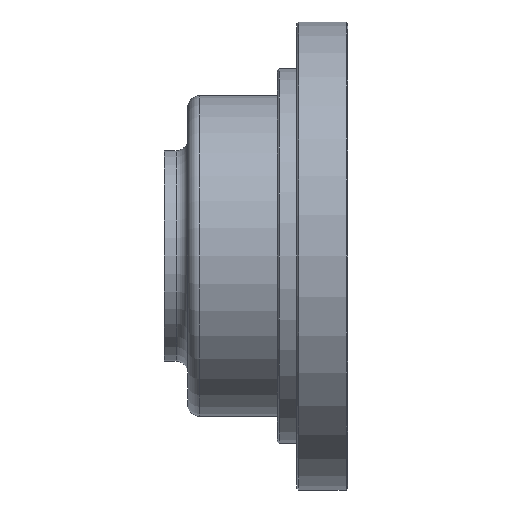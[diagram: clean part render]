
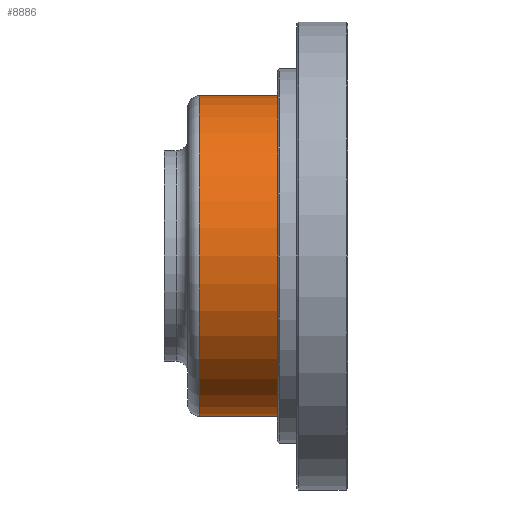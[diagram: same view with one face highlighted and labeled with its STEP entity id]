
A CAD part, left-side view. The second image highlights one B-rep face of the part: STEP entity #8886.
In plain terms, the highlighted cylindrical face has radius 20.55 mm (diameter 41.1 mm), a partial arc.
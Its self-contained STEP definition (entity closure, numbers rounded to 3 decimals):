
#423 = VECTOR ( 'NONE', #2668, 1000. ) ;
#917 = ORIENTED_EDGE ( 'NONE', *, *, #2424, .T. ) ;
#1005 = EDGE_LOOP ( 'NONE', ( #7390, #917, #3409, #5582 ) ) ;
#1977 = EDGE_CURVE ( 'NONE', #4071, #5590, #11102, .T. ) ;
#2249 = DIRECTION ( 'NONE',  ( 0., 1., 0. ) ) ;
#2424 = EDGE_CURVE ( 'NONE', #5755, #4071, #11649, .T. ) ;
#2668 = DIRECTION ( 'NONE',  ( 0., 1., 0. ) ) ;
#2901 = CARTESIAN_POINT ( 'NONE',  ( 0., 19., -20.55 ) ) ;
#3268 = CYLINDRICAL_SURFACE ( 'NONE', #9766, 20.55 ) ;
#3409 = ORIENTED_EDGE ( 'NONE', *, *, #1977, .T. ) ;
#3804 = AXIS2_PLACEMENT_3D ( 'NONE', #5923, #11402, #6811 ) ;
#4071 = VERTEX_POINT ( 'NONE', #5686 ) ;
#5296 = EDGE_CURVE ( 'NONE', #5755, #8011, #7016, .T. ) ;
#5582 = ORIENTED_EDGE ( 'NONE', *, *, #6825, .F. ) ;
#5590 = VERTEX_POINT ( 'NONE', #10414 ) ;
#5686 = CARTESIAN_POINT ( 'NONE',  ( 0., 0., 20.55 ) ) ;
#5755 = VERTEX_POINT ( 'NONE', #8756 ) ;
#5923 = CARTESIAN_POINT ( 'NONE',  ( 0., 19., 0. ) ) ;
#6331 = CARTESIAN_POINT ( 'NONE',  ( 0., 23.5, 20.55 ) ) ;
#6811 = DIRECTION ( 'NONE',  ( 0., 0., 1. ) ) ;
#6825 = EDGE_CURVE ( 'NONE', #8011, #5590, #7842, .T. ) ;
#7016 = LINE ( 'NONE', #10711, #423 ) ;
#7390 = ORIENTED_EDGE ( 'NONE', *, *, #5296, .F. ) ;
#7842 = CIRCLE ( 'NONE', #3804, 20.55 ) ;
#8011 = VERTEX_POINT ( 'NONE', #2901 ) ;
#8021 = DIRECTION ( 'NONE',  ( 0., 1., 0. ) ) ;
#8697 = VECTOR ( 'NONE', #8021, 1000. ) ;
#8756 = CARTESIAN_POINT ( 'NONE',  ( 0., 0., -20.55 ) ) ;
#8822 = AXIS2_PLACEMENT_3D ( 'NONE', #11358, #2249, #9480 ) ;
#8886 = ADVANCED_FACE ( 'NONE', ( #11217 ), #3268, .T. ) ;
#9480 = DIRECTION ( 'NONE',  ( 0., 0., 1. ) ) ;
#9766 = AXIS2_PLACEMENT_3D ( 'NONE', #10646, #9873, #10696 ) ;
#9873 = DIRECTION ( 'NONE',  ( 0., 1., 0. ) ) ;
#10414 = CARTESIAN_POINT ( 'NONE',  ( 0., 19., 20.55 ) ) ;
#10646 = CARTESIAN_POINT ( 'NONE',  ( 0., 23.5, 0. ) ) ;
#10696 = DIRECTION ( 'NONE',  ( 0., 0., 1. ) ) ;
#10711 = CARTESIAN_POINT ( 'NONE',  ( 0., 23.5, -20.55 ) ) ;
#11102 = LINE ( 'NONE', #6331, #8697 ) ;
#11217 = FACE_OUTER_BOUND ( 'NONE', #1005, .T. ) ;
#11358 = CARTESIAN_POINT ( 'NONE',  ( 0., 0., 0. ) ) ;
#11402 = DIRECTION ( 'NONE',  ( 0., 1., 0. ) ) ;
#11649 = CIRCLE ( 'NONE', #8822, 20.55 ) ;
